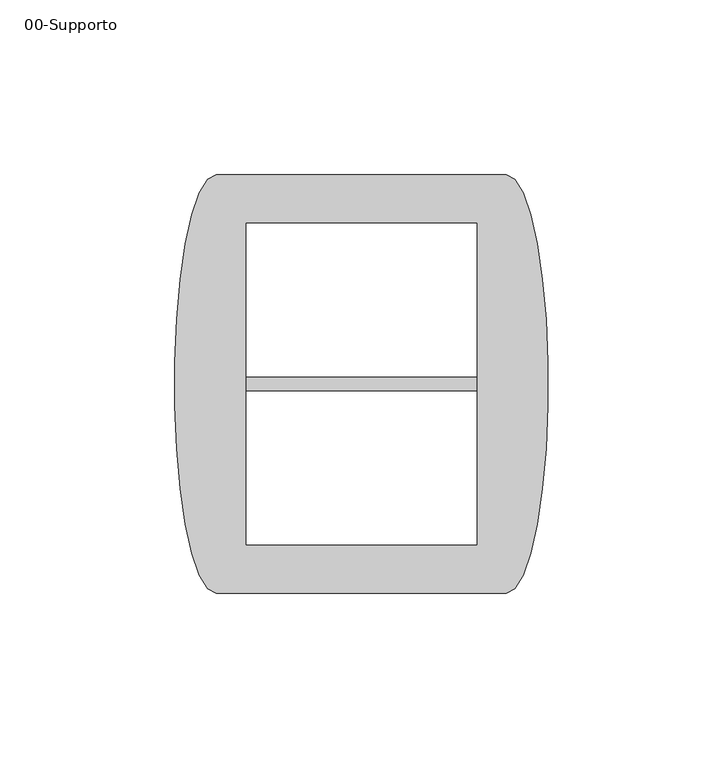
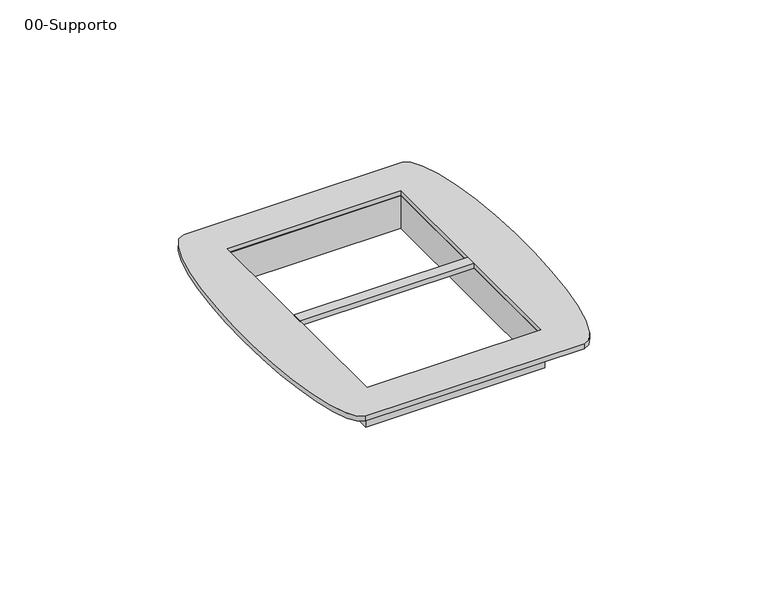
"""IFC4 building model written with IfcOpenShell, lengths in millimetres: proxy geometry, 00-Supporto : Supporto 6 moduli quadrata."""

import ifcopenshell
import ifcopenshell.guid

model = None  # the IFC model being written
_history = None  # IfcOwnerHistory: only IFC2X3 demands one
_inside = {}  # id of a spatial element -> (the spatial element, [elements in it])
_under = {}  # id of a project, library or spatial element -> (it, [spatial elements below it])
_declared = {}  # id of a project -> (the project, [libraries it declares])
_typed = {}  # id of a type object -> (the type object, [elements of that type])
_made_of = {}  # id of a material, layer set ... -> (it, [elements and type objects made of it])


def new_model(schema):
    """Start an empty IFC model of exactly this schema.

    Asked for "IFC4X3", IfcOpenShell would pick the latest addendum, in which some entities
    have other attributes; the version numbers below select the first issue.
    IFC2X3 requires an IfcOwnerHistory on every rooted entity: one is made here for all.
    """
    global model, _history
    if schema == "IFC4X3":
        model = ifcopenshell.file(schema_version=(4, 3, 0, 0))
    else:
        model = ifcopenshell.file(schema=schema)
    _inside.clear()
    _under.clear()
    _declared.clear()
    _typed.clear()
    _made_of.clear()
    _history = None
    if model.schema == "IFC2X3":
        org = make("IfcOrganization", Name="unknown")
        user = make(
            "IfcPersonAndOrganization",
            ThePerson=make("IfcPerson", FamilyName="unknown"),
            TheOrganization=org,
        )
        app = make(
            "IfcApplication",
            ApplicationDeveloper=org,
            Version="unknown",
            ApplicationFullName="unknown",
            ApplicationIdentifier="unknown",
        )
        _history = make(
            "IfcOwnerHistory",
            OwningUser=user,
            OwningApplication=app,
            ChangeAction="ADDED",
            CreationDate=0,
        )
    return model


def make(cls, **values):
    """One entity of the class cls with the attributes given. An attribute that is None is left unset."""
    return model.create_entity(
        cls, **{name: value for name, value in values.items() if value is not None}
    )


def rooted(cls, **values):
    """An entity with a GlobalId (a new one), such as an element, a storey or a relation."""
    return make(cls, GlobalId=ifcopenshell.guid.new(), OwnerHistory=_history, **values)


def si_unit(unit_type, name, prefix=None):
    """IfcSIUnit, for example si_unit("LENGTHUNIT", "METRE", prefix="MILLI")."""
    return make("IfcSIUnit", UnitType=unit_type, Prefix=prefix, Name=name)


def assignment(units):
    """IfcUnitAssignment: the units of a project."""
    return None if units is None else make("IfcUnitAssignment", Units=units)


def point(xyz):
    """IfcCartesianPoint."""
    return None if xyz is None else make("IfcCartesianPoint", Coordinates=xyz)


def direction(xyz):
    """IfcDirection."""
    return None if xyz is None else make("IfcDirection", DirectionRatios=xyz)


def frame(location, z_axis=None, x_axis=None):
    """IfcAxis2Placement3D, a coordinate frame: its origin and axes. An axis left out is left unset."""
    return make(
        "IfcAxis2Placement3D",
        Location=point(location),
        Axis=direction(z_axis),
        RefDirection=direction(x_axis),
    )


def origin():
    """The frame at (0, 0, 0) with its axes left unset."""
    return frame((0.0, 0.0, 0.0))


def origin_with_axes():
    """The frame at (0, 0, 0) with the z axis (0, 0, 1) and the x axis (1, 0, 0) written out."""
    return frame((0.0, 0.0, 0.0), z_axis=(0.0, 0.0, 1.0), x_axis=(1.0, 0.0, 0.0))


def place(relative_to, where):
    """IfcLocalPlacement: puts the frame where relative to a parent placement (None: the world)."""
    return make(
        "IfcLocalPlacement", PlacementRelTo=relative_to, RelativePlacement=where
    )


def context(
    kind, dimensions, precision=None, world=None, true_north=None, identifier=None
):
    """IfcGeometricRepresentationContext, for example the 3D "Model" context."""
    return make(
        "IfcGeometricRepresentationContext",
        ContextIdentifier=identifier,
        ContextType=kind,
        CoordinateSpaceDimension=dimensions,
        Precision=precision,
        WorldCoordinateSystem=world,
        TrueNorth=true_north,
    )


def project(units=None, contexts=None):
    """IfcProject with its units and contexts."""
    return rooted(
        "IfcProject",
        Name="project",
        RepresentationContexts=contexts,
        UnitsInContext=assignment(units),
    )


def spatial(cls, under=None, at=None, **own):
    """A site, building, storey or space (cls), placed at a placement, below another one or the project."""
    s = rooted(cls, ObjectPlacement=at, **own)
    if under is not None:
        _under.setdefault(under.id(), (under, []))[1].append(s)
    return s


def polyline(points):
    """IfcPolyline through the points."""
    return make("IfcPolyline", Points=[point(p) for p in points])


def ellipse_curve(where, semi_axis1, semi_axis2):
    """IfcEllipse in the frame where."""
    return make(
        "IfcEllipse", Position=where, SemiAxis1=semi_axis1, SemiAxis2=semi_axis2
    )


def trimmed(basis, trim1, trim2, sense, master):
    """IfcTrimmedCurve: the piece of a basis curve between two trims."""
    return make(
        "IfcTrimmedCurve",
        BasisCurve=basis,
        Trim1=trim1,
        Trim2=trim2,
        SenseAgreement=sense,
        MasterRepresentation=master,
    )


def outline(outer, holes=None, kind="AREA"):
    """IfcArbitraryClosedProfileDef: a profile drawn as a closed curve; with holes, ...WithVoids."""
    if holes is None:
        return make("IfcArbitraryClosedProfileDef", ProfileType=kind, OuterCurve=outer)
    return make(
        "IfcArbitraryProfileDefWithVoids",
        ProfileType=kind,
        OuterCurve=outer,
        InnerCurves=holes,
    )


def extrude(swept, where, along, depth):
    """IfcExtrudedAreaSolid: the profile swept, set in the frame where, extruded along a direction by depth."""
    return make(
        "IfcExtrudedAreaSolid",
        SweptArea=swept,
        Position=where,
        ExtrudedDirection=direction(along),
        Depth=depth,
    )


def shape(context_of_items, identifier, shape_type, items):
    """IfcShapeRepresentation: the items that make up one representation, for example the "Body"."""
    return make(
        "IfcShapeRepresentation",
        ContextOfItems=context_of_items,
        RepresentationIdentifier=identifier,
        RepresentationType=shape_type,
        Items=items,
    )


def source(mapping_origin, context_of_items, identifier, shape_type, items):
    """IfcRepresentationMap: a shape defined once, which mapped items show again and again."""
    return make(
        "IfcRepresentationMap",
        MappingOrigin=mapping_origin,
        MappedRepresentation=shape(context_of_items, identifier, shape_type, items),
    )


def transform(
    local_origin,
    x_axis=None,
    y_axis=None,
    z_axis=None,
    scale=None,
    scale2=None,
    scale3=None,
    uniform=True,
):
    """IfcCartesianTransformationOperator3D, or its non-uniform kind. x_axis, y_axis, z_axis: its Axis1, 2, 3."""
    if uniform:
        return make(
            "IfcCartesianTransformationOperator3D",
            Axis1=direction(x_axis),
            Axis2=direction(y_axis),
            LocalOrigin=point(local_origin),
            Scale=scale,
            Axis3=direction(z_axis),
        )
    return make(
        "IfcCartesianTransformationOperator3DnonUniform",
        Axis1=direction(x_axis),
        Axis2=direction(y_axis),
        LocalOrigin=point(local_origin),
        Scale=scale,
        Axis3=direction(z_axis),
        Scale2=scale2,
        Scale3=scale3,
    )


def mapped(mapping_source, mapping_target):
    """IfcMappedItem: shows the shape of a source again, moved by a transform."""
    return make(
        "IfcMappedItem", MappingSource=mapping_source, MappingTarget=mapping_target
    )


def made_of(thing, what):
    """Note that an element or type object is made of a material, layer set ...; save() writes the relation."""
    if what is not None:
        _made_of.setdefault(what.id(), (what, []))[1].append(thing)
    return thing


def element(
    cls,
    number,
    at=None,
    inside=None,
    cuts=None,
    type_object=None,
    material=None,
    context=None,
    identifier="Body",
    shape_type=None,
    held_by="IfcProductDefinitionShape",
    body=None,
    shapes=None,
    **own,
):
    """One element of the class cls, such as IfcWall. Its Tag is "e" and its number.

    at: its placement. inside: the storey or other place that contains it. cuts: it is an
    opening in that element (IfcRelVoidsElement). A single representation is given by context,
    identifier, shape_type and body (its items); several are given by shapes. held_by: the class
    of the entity that holds the representations. save() writes the other relations.
    """
    e = rooted(cls, Tag="e%d" % number, ObjectPlacement=at, **own)
    if body is not None:
        shapes = [shape(context, identifier, shape_type, body)]
    if shapes is not None:
        e.Representation = make(held_by, Representations=shapes)
    if inside is not None:
        _inside.setdefault(inside.id(), (inside, []))[1].append(e)
    if cuts is not None:
        rooted(
            "IfcRelVoidsElement", RelatingBuildingElement=cuts, RelatedOpeningElement=e
        )
    if type_object is not None:
        _typed.setdefault(type_object.id(), (type_object, []))[1].append(e)
    return made_of(e, material)


def aggregate(whole, parts):
    """IfcRelAggregates: a whole, such as a stair, and the parts it consists of."""
    return rooted("IfcRelAggregates", RelatingObject=whole, RelatedObjects=parts)


def save(model, path):
    """Write the relations noted so far, then the file.

    IfcRelAggregates (storeys below a building ...), IfcRelContainedInSpatialStructure (elements
    in a storey), IfcRelDefinesByType, IfcRelAssociatesMaterial and IfcRelDeclares: one each for
    every whole, place, type object, material and project.
    """
    for whole, parts in _under.values():
        aggregate(whole, parts)
    for where, things in _inside.values():
        rooted(
            "IfcRelContainedInSpatialStructure",
            RelatedElements=things,
            RelatingStructure=where,
        )
    for kind, things in _typed.values():
        rooted("IfcRelDefinesByType", RelatedObjects=things, RelatingType=kind)
    for what, things in _made_of.values():
        rooted("IfcRelAssociatesMaterial", RelatedObjects=things, RelatingMaterial=what)
    for by, libraries in _declared.values():
        rooted("IfcRelDeclares", RelatingContext=by, RelatedDefinitions=libraries)
    model.write(path)


def plane_surface(at):
    """IfcPlane: the flat surface through the origin of the frame at, square to its z axis."""
    return make("IfcPlane", Position=at)


def extruded_surface(curve, direction_of_extrusion, depth):
    """IfcSurfaceOfLinearExtrusion: the curve pushed along a direction by depth."""
    return make(
        "IfcSurfaceOfLinearExtrusion",
        SweptCurve=make("IfcArbitraryOpenProfileDef", ProfileType="CURVE", Curve=curve),
        ExtrudedDirection=direction(direction_of_extrusion),
        Depth=depth,
    )


def advanced_brep(points, edges, surfaces, faces):
    """IfcAdvancedBrep: a solid bounded by faces that lie on surfaces and meet in shared edges.

    An edge is (start, end): straight between two places in points (the first is 0);
    or (start, end, curve); or (start, end, curve, False) where it runs against its curve.
    A face is (place in surfaces, loops), or (place, loops, False) where it looks against
    its surface's normal. A loop lists edges by number (the first is 1), with a minus sign
    where the edge is run from its end to its start. The first loop is the outer one.
    """
    corners = [point(p) for p in points]
    vertices = [make("IfcVertexPoint", VertexGeometry=c) for c in corners]
    made = []
    for start, end, *more in edges:
        made.append(
            make(
                "IfcEdgeCurve",
                EdgeStart=vertices[start],
                EdgeEnd=vertices[end],
                EdgeGeometry=more[0] if more else make("IfcPolyline", Points=[corners[start], corners[end]]),
                SameSense=more[1] if len(more) > 1 else True,
            )
        )
    hull = []
    for where, loops, *sense in faces:
        bounds = []
        for j, loop in enumerate(loops):
            ring = [make("IfcOrientedEdge", EdgeElement=made[abs(k) - 1], Orientation=k > 0) for k in loop]
            bounds.append(
                make(
                    "IfcFaceOuterBound" if j == 0 else "IfcFaceBound",
                    Bound=make("IfcEdgeLoop", EdgeList=ring),
                    Orientation=True,
                )
            )
        hull.append(make("IfcAdvancedFace", Bounds=bounds, FaceSurface=surfaces[where], SameSense=sense[0] if sense else True))
    return make("IfcAdvancedBrep", Outer=make("IfcClosedShell", CfsFaces=hull))


def proxy_00_supporto_8aa1b05d(model_context):
    return source(origin(), model_context, "Body", "SolidModel", [
        extrude(outline(polyline([(33.0, -2.0), (-33.0, -2.0), (-33.0, 2.0), (33.0, 2.0), (33.0, -2.0)])), origin_with_axes(), (0.0, 0.0, 1.0), 2.0),
        extrude(outline(polyline([(34.0, -47.0), (-34.0, -47.0), (-34.0, 47.0), (34.0, 47.0), (34.0, -47.0)]), holes=[polyline([(-33.0, 46.0), (-33.0, -46.0), (33.0, -46.0), (33.0, 46.0), (-33.0, 46.0)])]), frame((0.0, 0.0, -13.0), z_axis=(0.0, 0.0, 1.0), x_axis=(1.0, 0.0, 0.0)), (0.0, 0.0, 1.0), 13.0),
        advanced_brep(
        [(41.5, 60.0, 2.0), (-41.5, 60.0, 2.0), (-41.5, -60.0, 2.0), (41.5, -60.0, 2.0), (-33.0, -46.0, 2.0), (-33.0, 46.0, 2.0), (33.0, 46.0, 2.0), (33.0, -46.0, 2.0), (41.5, 60.0, 0.0), (41.5, -60.0, 0.0), (-41.5, -60.0, 0.0), (-41.5, 60.0, 0.0), (-33.0, -46.0, 0.0), (33.0, -46.0, 0.0), (33.0, 46.0, 0.0), (-33.0, 46.0, 0.0)],
        [
            (0, 1),
            (1, 2, ellipse_curve(frame((-41.5, 0.0, 2.0), z_axis=(0.0, 0.0, 1.0), x_axis=(0.0, -1.0, 0.0)), 60.0, 12.0)),
            (2, 3),
            (3, 0, ellipse_curve(frame((41.5, 0.0, 2.0), z_axis=(0.0, 0.0, 1.0), x_axis=(0.0, 1.0, 0.0)), 60.0, 12.0)),
            (4, 5),
            (5, 6),
            (6, 7),
            (7, 4),
            (8, 9, ellipse_curve(frame((41.5, 0.0, 0.0), z_axis=(0.0, 0.0, -1.0), x_axis=(0.0, 1.0, 0.0)), 60.0, 12.0)),
            (9, 10),
            (10, 11, ellipse_curve(frame((-41.5, 0.0, 0.0), z_axis=(0.0, 0.0, -1.0), x_axis=(0.0, -1.0, 0.0)), 60.0, 12.0)),
            (11, 8),
            (12, 13),
            (13, 14),
            (14, 15),
            (15, 12),
            (0, 8),
            (11, 1),
            (2, 10),
            (9, 3),
            (4, 12),
            (15, 5),
            (14, 6),
            (13, 7),
        ],
        [
            plane_surface(frame((-41.5, 60.0, 2.0), z_axis=(0.0, 0.0, 1.0), x_axis=(-1.0, 0.0, 0.0))),
            plane_surface(frame((-41.5, 60.0, 0.0), z_axis=(0.0, 0.0, -1.0), x_axis=(1.0, 0.0, 0.0))),
            plane_surface(frame((41.5, 60.0, 2.0), z_axis=(0.0, 1.0, 0.0), x_axis=(0.0, 0.0, -1.0))),
            plane_surface(frame((-41.5, -60.0, 2.0), z_axis=(0.0, -1.0, 0.0), x_axis=(0.0, 0.0, -1.0))),
            plane_surface(frame((-33.0, -46.0, 2.0), z_axis=(1.0, 0.0, 0.0), x_axis=(0.0, 0.0, -1.0))),
            plane_surface(frame((-33.0, 46.0, 2.0), z_axis=(0.0, -1.0, 0.0), x_axis=(0.0, 0.0, -1.0))),
            plane_surface(frame((33.0, 46.0, 2.0), z_axis=(-1.0, 0.0, 0.0), x_axis=(0.0, 0.0, -1.0))),
            plane_surface(frame((33.0, -46.0, 2.0), z_axis=(0.0, 1.0, 0.0), x_axis=(0.0, 0.0, -1.0))),
            extruded_surface(trimmed(ellipse_curve(frame((41.5, 0.0, -2.0), z_axis=(0.0, 0.0, 1.0), x_axis=(0.0, 1.0, 0.0)), 60.0, 12.0), [point((41.5, -60.0, -2.0))], [point((41.5, 60.0, -2.0))], True, "CARTESIAN"), (0.0, 0.0, 2.0), 2.0),
            extruded_surface(trimmed(ellipse_curve(frame((-41.5, 0.0, -2.0), z_axis=(0.0, 0.0, 1.0), x_axis=(0.0, -1.0, 0.0)), 60.0, 12.0), [point((-41.5, 60.0, -2.0))], [point((-41.5, -60.0, -2.0))], True, "CARTESIAN"), (0.0, 0.0, 2.0), 2.0),
        ],
        [
            (0, [[1, 2, 3, 4], [5, 6, 7, 8]]),
            (1, [[9, 10, 11, 12], [13, 14, 15, 16]]),
            (2, [[-1, 17, -12, 18]]),
            (3, [[-3, 19, -10, 20]]),
            (4, [[-5, 21, -16, 22]]),
            (5, [[-6, -22, -15, 23]]),
            (6, [[-7, -23, -14, 24]]),
            (7, [[-8, -24, -13, -21]]),
            (8, [[-4, -20, -9, -17]]),
            (9, [[-2, -18, -11, -19]]),
        ],
    ),
    ])


if __name__ == "__main__":
    model = new_model("IFC4")
    model_context = context("Model", 3, world=origin())
    ifc_project = project(units=[si_unit("LENGTHUNIT", "METRE", prefix="MILLI")], contexts=[model_context])
    site = spatial("IfcSite", under=ifc_project)
    building = spatial("IfcBuilding", under=site)
    placement = place(None, origin())
    proxy_00_supporto_shape = proxy_00_supporto_8aa1b05d(model_context)
    element("IfcBuildingElementProxy", 1, Name="00-Supporto : Supporto 6 moduli quadrata", ObjectType="00-Supporto : Supporto 6 moduli quadrata", at=placement, inside=building, context=model_context, shape_type="MappedRepresentation", body=[
        mapped(proxy_00_supporto_shape, transform((0.0, 0.0, 0.0), x_axis=(1.0, 0.0, 0.0), y_axis=(0.0, 1.0, 0.0), z_axis=(0.0, 0.0, 1.0))),
    ])
    save(model, "model.ifc")
